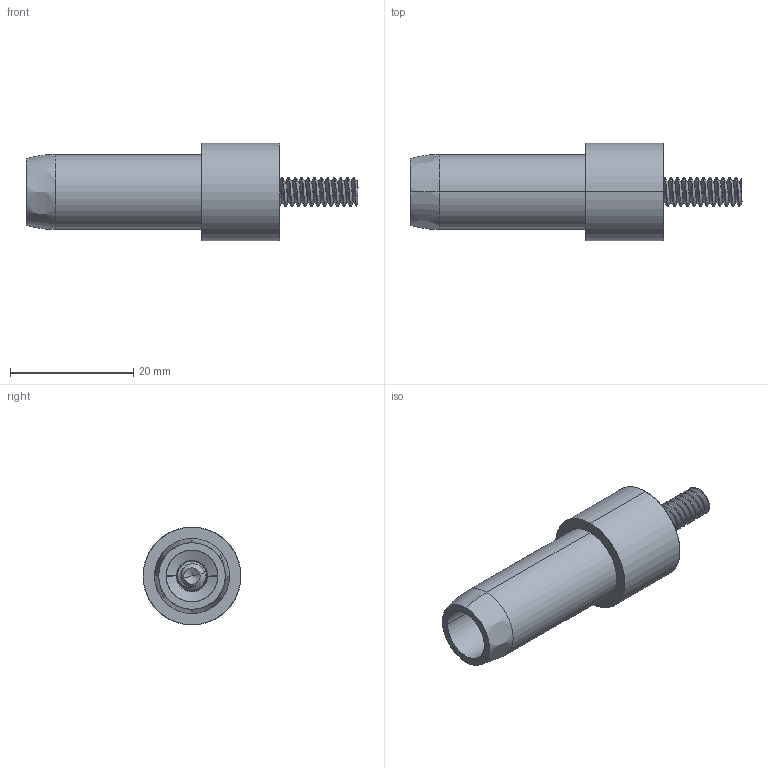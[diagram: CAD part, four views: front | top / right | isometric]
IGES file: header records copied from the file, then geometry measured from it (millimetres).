
Start section: SolidWorks IGES file using analytic representation for surfaces
Global section: file name: \\SERVER3\Design\_New Design Drive Folder List\_Design Vault\AAI\Modular Round Tube Connectors\Solidworks Models\Modular Connectors\0.500 In. Modular Connectors\Basic Models\0.500 In. Threaded End Connector with Stud.IGS; native system: SolidWorks 2013; preprocessor: SolidWorks 2013; author: tbraun; date: 140807.145051; units: inch
Bounding box: 53.98 x 15.88 x 15.88 mm (x, y, z)
Surface area: 3831.4 mm2 (no closed solid volume)
Topology: 0 solids, 0 shells, 104 faces, 1544 edges, 1540 vertices
Faces by surface type: revolution 73, bspline 31
